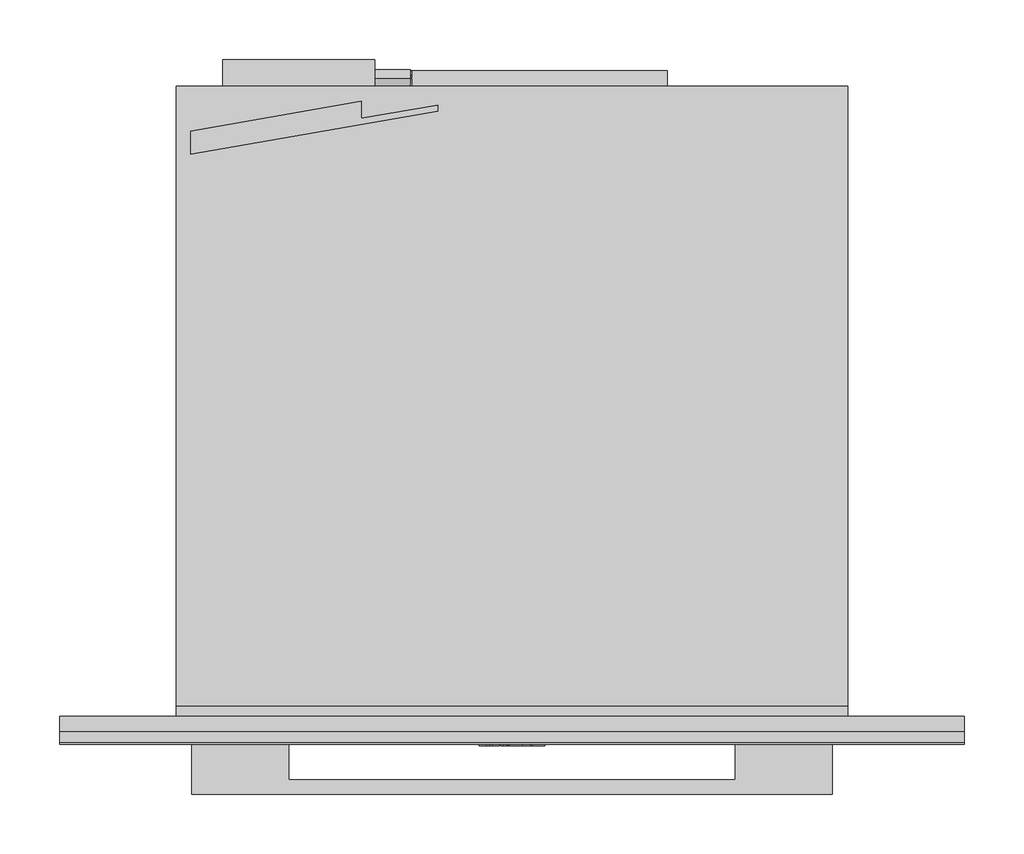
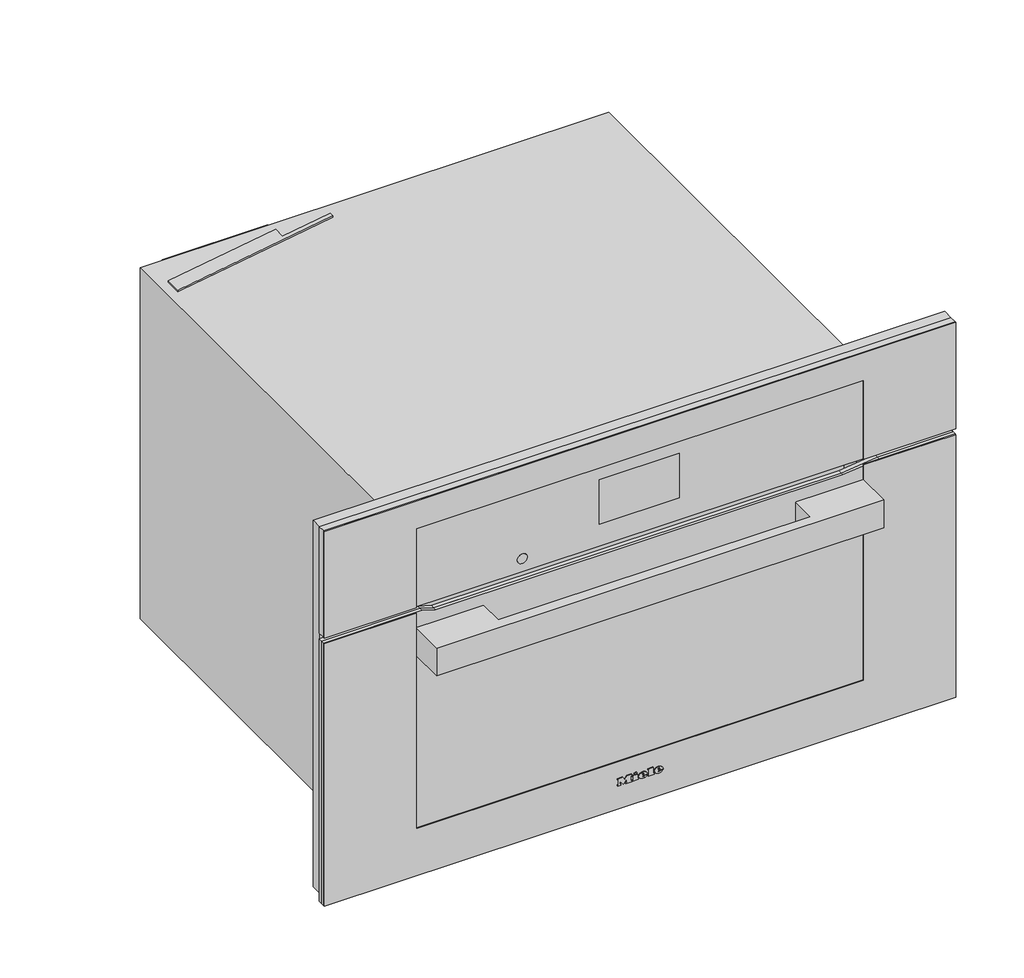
# Not in any storey: 1 proxy.
"""IFC4 building model written with IfcOpenShell, lengths in millimetres."""

from ifc_helpers import new_model, si_unit, origin, place, context, project, spatial, transform, mapped, element, save
from components import specialty_equipment_445a4902

model = new_model("IFC4")

# Units and contexts
model_context = context("Model", 3, world=origin())
ifc_project = project(units=[si_unit("LENGTHUNIT", "METRE", prefix="MILLI")], contexts=[model_context])

# Site, building
site = spatial("IfcSite", under=ifc_project)
building = spatial("IfcBuilding", under=site)

# Proxy
placement = place(None, origin())
specialty_equipment_shape = specialty_equipment_445a4902(model_context)
element("IfcBuildingElementProxy", 1, Name="11804590_USA_H7570BM_EDST-CLST : 22757046_USA_11804590_H7570BM_EDST-CLST", ObjectType="11804590_USA_H7570BM_EDST-CLST : 22757046_USA_11804590_H7570BM_EDST-CLST", at=placement, inside=building, context=model_context, shape_type="MappedRepresentation", body=[
    mapped(specialty_equipment_shape, transform((0.0, 0.0, 0.0), x_axis=(1.0, 0.0, 0.0), y_axis=(0.0, 1.0, 0.0), z_axis=(0.0, 0.0, 1.0))),
])

save(model, "model.ifc")
